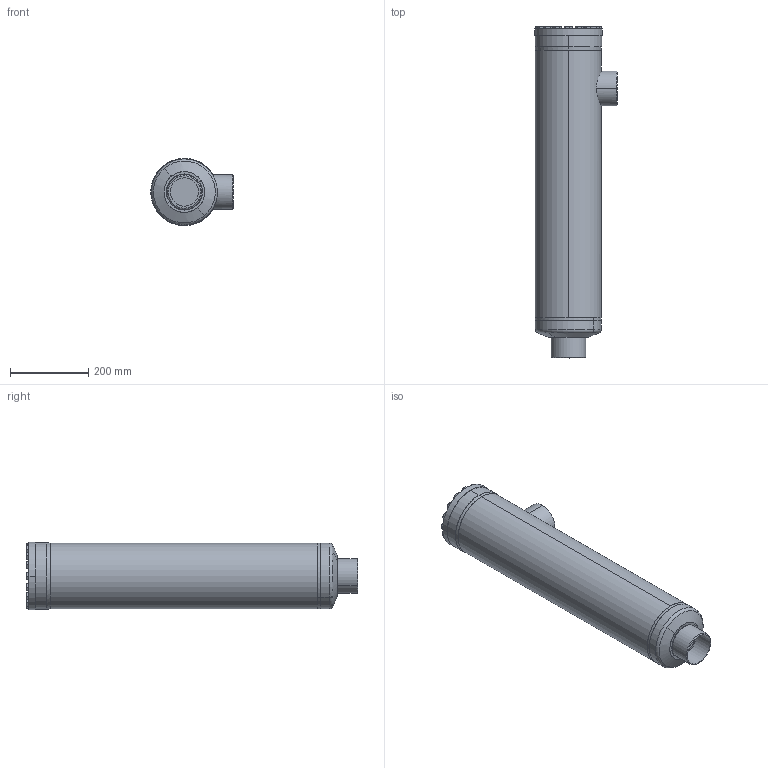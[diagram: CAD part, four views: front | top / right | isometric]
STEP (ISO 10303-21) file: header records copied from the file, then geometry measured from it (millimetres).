
FILE_DESCRIPTION (( 'STEP AP214' ), '1' );
FILE_NAME ('FT56700D18-DN80-8-4_PS40.STEP', '2010-09-13T08:36:23', ( 'Eckhard Grams' ), ( 'AWP Kälte Klima Armaturen GmbH' ), 'SwSTEP 2.0', 'SolidWorks 2002296', '' );
FILE_SCHEMA (( 'AUTOMOTIVE_DESIGN' ));
Length unit declared in the file: millimetre
Products named in the file (14): FT56700D18-DN80-8-4_PS40; Geh-kpl-FT-DN80-8-4-PS40_Standard; Gehäuse-FT-DN50-80_PS40_80-4; Rohrstutzen-FT-DN20-80_DN 80; Kopfstück-FT-DN50-80_PS40_Standard; FT Boden-Führungsrohr DN80_PS25_Standard; Führungsrohr-FT-DN80_Standard; Boden-FT-DN20-80_DN 80; bead-Bo-Fü-80_Standard; bead80-Geh-Ko4_Standard; bead80-Geh-Bo1_Standard; FT Deckel-Schrauben-DN50-80_PS40_Standard; Deckel56700E17-DN50-80_PS40_Standard; Sechskantschraube-DIN933_M12x 30
Assembly tree (28 placements, depth 4):
  FT56700D18-DN80-8-4_PS40
    FT Deckel-Schrauben-DN50-80_PS40_Standard
      Sechskantschraube-DIN933_M12x 30  x16
      Deckel56700E17-DN50-80_PS40_Standard
    Geh-kpl-FT-DN80-8-4-PS40_Standard
      FT Boden-Führungsrohr DN80_PS25_Standard
        Boden-FT-DN20-80_DN 80
        bead-Bo-Fü-80_Standard
        Führungsrohr-FT-DN80_Standard
      Rohrstutzen-FT-DN20-80_DN 80
      Kopfstück-FT-DN50-80_PS40_Standard
      Gehäuse-FT-DN50-80_PS40_80-4
      bead80-Geh-Ko4_Standard
      bead80-Geh-Bo1_Standard
Bounding box: 211 x 847.86 x 172 mm (x, y, z)
Volume: 3452279 mm3; surface area: 1043923.2 mm2
Topology: 25 solids, 25 shells, 655 faces, 1422 edges, 834 vertices
Faces by surface type: cone 286, plane 178, cylinder 169, bspline 12, torus 6, sphere 4
Entity records: 13205 total; most frequent: CARTESIAN_POINT 6072, DIRECTION 1464, ORIENTED_EDGE 1220, AXIS2_PLACEMENT_3D 628, EDGE_CURVE 610, VERTEX_POINT 384, EDGE_LOOP 364, CIRCLE 326
